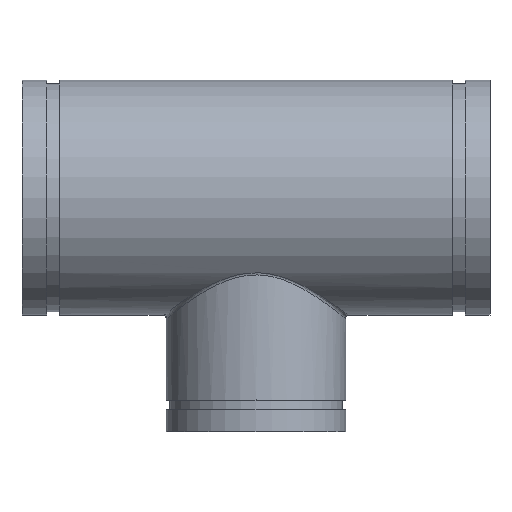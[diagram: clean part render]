
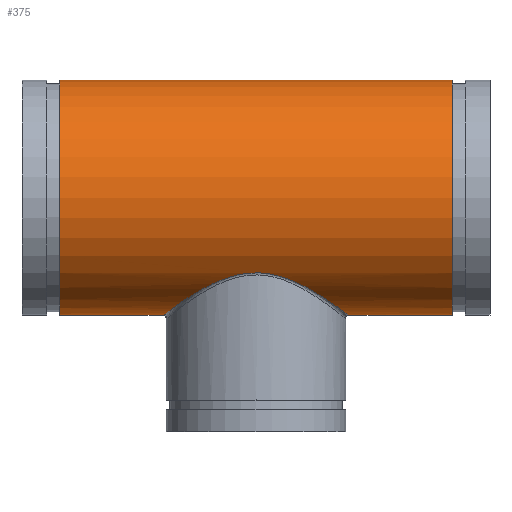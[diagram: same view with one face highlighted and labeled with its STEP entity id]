
A CAD part, top view. The second image highlights one B-rep face of the part: STEP entity #375.
In plain terms, the highlighted cylindrical face has radius 114.935 mm (diameter 229.87 mm), a full revolution.
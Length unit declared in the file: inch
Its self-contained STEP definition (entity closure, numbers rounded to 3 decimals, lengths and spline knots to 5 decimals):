
#54=FACE_BOUND('',#119,.T.);
#65=LINE('',#875,#76);
#76=VECTOR('',#483,4.525);
#87=CYLINDRICAL_SURFACE('',#415,4.525);
#98=FACE_OUTER_BOUND('',#118,.T.);
#118=EDGE_LOOP('',(#266,#267,#268,#269));
#119=EDGE_LOOP('',(#270));
#150=B_SPLINE_CURVE_WITH_KNOTS('',3,(#835,#836,#837,#838,#839,#840,#841,
#842,#843,#844,#845,#846,#847,#848,#849,#850,#851,#852,#853,#854,#855,#856,
#857,#858,#859,#860,#861,#862,#863,#864,#865,#866,#867,#868,#869,#870),
 .UNSPECIFIED.,.T.,.F.,(4,1,1,1,1,1,1,1,1,1,1,1,1,1,1,1,1,1,1,1,1,1,1,1,
1,1,1,1,1,1,1,1,1,4),(-56.05665,-55.05564,-54.05463,
-52.0526,-50.05058,-48.04856,-45.37919,
-44.04451,-42.70983,-41.37515,-40.04046,
-37.3711,-34.70173,-32.03237,-30.69769,
-29.36301,-28.02832,-26.69364,-25.35896,
-24.02428,-22.6896,-21.35491,-18.68555,-16.01619,
-14.01416,-13.68049,-13.34682,-10.67746,
-8.00809,-6.00607,-4.00405,-2.00202,
-1.00101,0.),.UNSPECIFIED.);
#154=CIRCLE('',#416,4.525);
#155=CIRCLE('',#417,4.525);
#182=VERTEX_POINT('',#791);
#185=VERTEX_POINT('',#872);
#186=VERTEX_POINT('',#874);
#219=EDGE_CURVE('',#182,#182,#150,.T.);
#220=EDGE_CURVE('',#185,#185,#154,.T.);
#221=EDGE_CURVE('',#185,#186,#65,.T.);
#222=EDGE_CURVE('',#186,#186,#155,.T.);
#266=ORIENTED_EDGE('',*,*,#220,.T.);
#267=ORIENTED_EDGE('',*,*,#221,.T.);
#268=ORIENTED_EDGE('',*,*,#222,.T.);
#269=ORIENTED_EDGE('',*,*,#221,.F.);
#270=ORIENTED_EDGE('',*,*,#219,.F.);
#375=ADVANCED_FACE('',(#98,#54),#87,.T.);
#415=AXIS2_PLACEMENT_3D('',#871,#479,#480);
#416=AXIS2_PLACEMENT_3D('',#873,#481,#482);
#417=AXIS2_PLACEMENT_3D('',#876,#484,#485);
#479=DIRECTION('center_axis',(-1.,0.,0.));
#480=DIRECTION('ref_axis',(0.,-1.,0.));
#481=DIRECTION('center_axis',(1.,0.,0.));
#482=DIRECTION('ref_axis',(0.,-1.,0.));
#483=DIRECTION('',(1.,0.,0.));
#484=DIRECTION('center_axis',(-1.,0.,0.));
#485=DIRECTION('ref_axis',(0.,-1.,0.));
#791=CARTESIAN_POINT('',(0.,-2.8936,-3.4789));
#835=CARTESIAN_POINT('Ctrl Pts',(0.,-2.8936,
-3.4789));
#836=CARTESIAN_POINT('Ctrl Pts',(0.14078,-2.8936,-3.4789));
#837=CARTESIAN_POINT('Ctrl Pts',(0.42217,-2.9133,-3.46265));
#838=CARTESIAN_POINT('Ctrl Pts',(0.96731,-3.02463,-3.36758));
#839=CARTESIAN_POINT('Ctrl Pts',(1.59217,-3.26438,-3.14538));
#840=CARTESIAN_POINT('Ctrl Pts',(2.24106,-3.61368,-2.744));
#841=CARTESIAN_POINT('Ctrl Pts',(2.85025,-4.00127,-2.16117));
#842=CARTESIAN_POINT('Ctrl Pts',(3.26363,-4.29516,-1.49515));
#843=CARTESIAN_POINT('Ctrl Pts',(3.49036,-4.46168,-0.81506));
#844=CARTESIAN_POINT('Ctrl Pts',(3.57866,-4.52779,-0.27536));
#845=CARTESIAN_POINT('Ctrl Pts',(3.57862,-4.52763,0.2752));
#846=CARTESIAN_POINT('Ctrl Pts',(3.461,-4.43999,0.99558));
#847=CARTESIAN_POINT('Ctrl Pts',(3.10943,-4.18151,1.81752));
#848=CARTESIAN_POINT('Ctrl Pts',(2.44857,-3.73501,2.59829));
#849=CARTESIAN_POINT('Ctrl Pts',(1.74541,-3.33649,3.06858));
#850=CARTESIAN_POINT('Ctrl Pts',(1.0945,-3.07152,3.32555));
#851=CARTESIAN_POINT('Ctrl Pts',(0.56291,-2.92928,3.44969));
#852=CARTESIAN_POINT('Ctrl Pts',(0.,-2.87562,3.49356));
#853=CARTESIAN_POINT('Ctrl Pts',(-0.56294,-2.92922,3.4497));
#854=CARTESIAN_POINT('Ctrl Pts',(-1.09453,-3.07169,3.32549));
#855=CARTESIAN_POINT('Ctrl Pts',(-1.58268,-3.26991,3.13292));
#856=CARTESIAN_POINT('Ctrl Pts',(-2.02662,-3.49627,2.88034));
#857=CARTESIAN_POINT('Ctrl Pts',(-2.5587,-3.80904,2.46832));
#858=CARTESIAN_POINT('Ctrl Pts',(-3.10944,-4.18176,1.8174));
#859=CARTESIAN_POINT('Ctrl Pts',(-3.49625,-4.46577,0.91362));
#860=CARTESIAN_POINT('Ctrl Pts',(-3.58069,-4.5293,0.22822));
#861=CARTESIAN_POINT('Ctrl Pts',(-3.5731,-4.52357,-0.13693));
#862=CARTESIAN_POINT('Ctrl Pts',(-3.5459,-4.50332,-0.5928));
#863=CARTESIAN_POINT('Ctrl Pts',(-3.35586,-4.3608,-1.34748));
#864=CARTESIAN_POINT('Ctrl Pts',(-2.85012,-4.00113,-2.16098));
#865=CARTESIAN_POINT('Ctrl Pts',(-2.24116,-3.61378,-2.74406));
#866=CARTESIAN_POINT('Ctrl Pts',(-1.59211,-3.26434,-3.14534));
#867=CARTESIAN_POINT('Ctrl Pts',(-0.96733,-3.02465,-3.3676));
#868=CARTESIAN_POINT('Ctrl Pts',(-0.42217,-2.91329,-3.46264));
#869=CARTESIAN_POINT('Ctrl Pts',(-0.14078,-2.8936,-3.4789));
#870=CARTESIAN_POINT('Ctrl Pts',(0.,-2.8936,
-3.4789));
#871=CARTESIAN_POINT('Origin',(9.,0.,0.));
#872=CARTESIAN_POINT('',(-7.55,4.525,0.));
#873=CARTESIAN_POINT('Origin',(-7.55,0.,0.));
#874=CARTESIAN_POINT('',(7.55,4.525,0.));
#875=CARTESIAN_POINT('',(9.,4.525,0.));
#876=CARTESIAN_POINT('Origin',(7.55,0.,0.));
